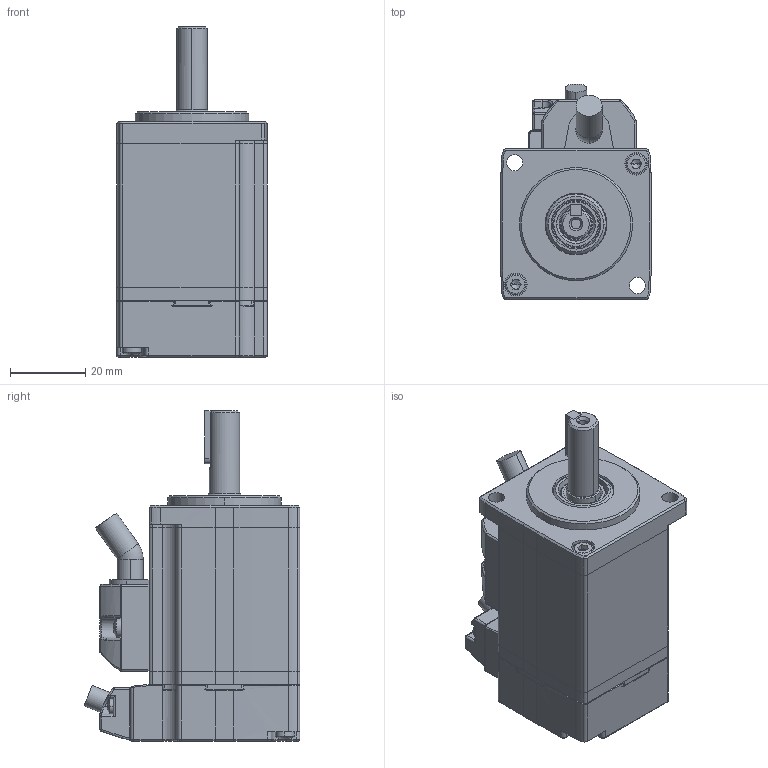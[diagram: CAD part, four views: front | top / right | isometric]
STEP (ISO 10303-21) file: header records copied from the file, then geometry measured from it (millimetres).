
FILE_DESCRIPTION (( 'STEP AP203' ), '1' );
FILE_NAME ('EM3AA5A 非抱闸（永磁交流伺服电动机外形图）.STEP', '2018-12-26T02:52:06', ( '' ), ( '' ), 'SwSTEP 2.0', 'SolidWorks 2016', '' );
FILE_SCHEMA (( 'CONFIG_CONTROL_DESIGN' ));
Length unit declared in the file: millimetre
Products named in the file (1): EM3AA5A 非抱闸（永磁交流伺服电动机外形图）
Bounding box: 40 x 57.22 x 87.5 mm (x, y, z)
Surface area: 19618.4 mm2 (no closed solid volume)
Topology: 0 solids, 24 shells, 517 faces, 1504 edges, 972 vertices
Faces by surface type: cylinder 199, plane 185, cone 43, torus 40, sphere 38, bspline 12
Entity records: 17592 total; most frequent: CARTESIAN_POINT 3875, DIRECTION 3135, ORIENTED_EDGE 2530, EDGE_CURVE 1487, AXIS2_PLACEMENT_3D 1241, VERTEX_POINT 972, CIRCLE 735, VECTOR 653
